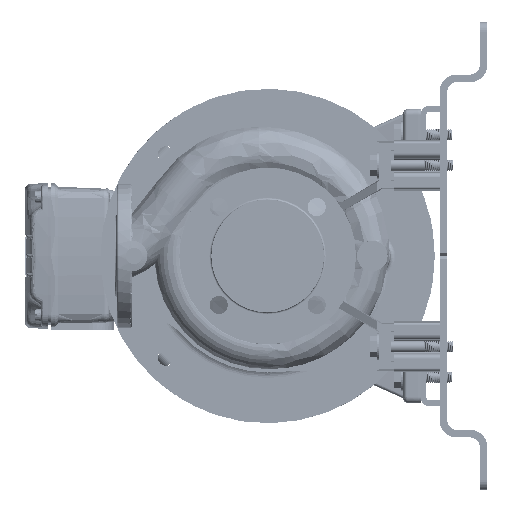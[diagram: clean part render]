
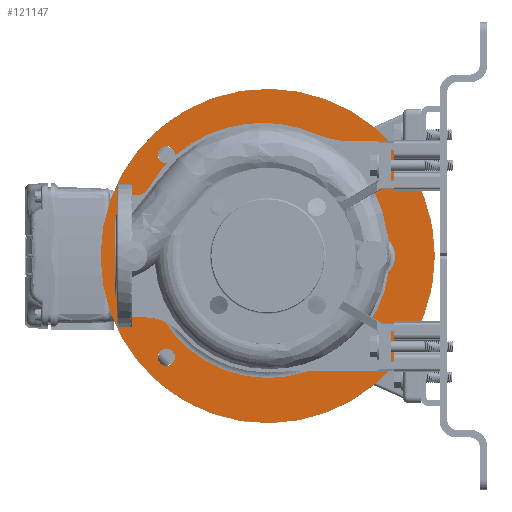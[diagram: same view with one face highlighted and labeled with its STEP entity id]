
A CAD part, left-side view. The second image highlights one B-rep face of the part: STEP entity #121147.
In plain terms, the highlighted planar face has unit normal (-1, 0, 0).
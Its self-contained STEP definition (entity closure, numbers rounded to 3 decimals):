
#3421 = CARTESIAN_POINT ( 'NONE',  ( 229.752, 62.303, 217.188 ) ) ;
#3455 = CIRCLE ( 'NONE', #42219, 9. ) ;
#3625 = FACE_BOUND ( 'NONE', #176148, .T. ) ;
#4035 = DIRECTION ( 'NONE',  ( 0., 0., -1. ) ) ;
#10991 = ORIENTED_EDGE ( 'NONE', *, *, #38010, .T. ) ;
#15312 = DIRECTION ( 'NONE',  ( 0., 0., -1. ) ) ;
#17557 = AXIS2_PLACEMENT_3D ( 'NONE', #74731, #258387, #21630 ) ;
#19636 = DIRECTION ( 'NONE',  ( 0., 0., 1. ) ) ;
#19817 = CARTESIAN_POINT ( 'NONE',  ( 229.752, 168.339, 314.278 ) ) ;
#21630 = DIRECTION ( 'NONE',  ( 0., 0., -1. ) ) ;
#27814 = FACE_BOUND ( 'NONE', #184197, .T. ) ;
#30152 = CARTESIAN_POINT ( 'NONE',  ( 229.752, 62.303, 420.367 ) ) ;
#30153 = CIRCLE ( 'NONE', #88653, 175. ) ;
#33953 = EDGE_CURVE ( 'NONE', #197622, #210861, #210658, .T. ) ;
#34653 = DIRECTION ( 'NONE',  ( -1., 0., 0. ) ) ;
#37283 = DIRECTION ( 'NONE',  ( -1., 0., 0. ) ) ;
#38010 = EDGE_CURVE ( 'NONE', #92273, #113544, #3455, .T. ) ;
#42219 = AXIS2_PLACEMENT_3D ( 'NONE', #109559, #246114, #15312 ) ;
#43204 = CARTESIAN_POINT ( 'NONE',  ( 229.752, 168.339, 314.278 ) ) ;
#46105 = VERTEX_POINT ( 'NONE', #138840 ) ;
#50682 = FACE_BOUND ( 'NONE', #180370, .T. ) ;
#53108 = ORIENTED_EDGE ( 'NONE', *, *, #120908, .T. ) ;
#55169 = DIRECTION ( 'NONE',  ( 0., 0., 1. ) ) ;
#55651 = AXIS2_PLACEMENT_3D ( 'NONE', #19817, #135357, #112646 ) ;
#65312 = ORIENTED_EDGE ( 'NONE', *, *, #139621, .F. ) ;
#65359 = CARTESIAN_POINT ( 'NONE',  ( 229.752, 274.374, 429.367 ) ) ;
#72787 = CIRCLE ( 'NONE', #213464, 23.5 ) ;
#73747 = ORIENTED_EDGE ( 'NONE', *, *, #160124, .F. ) ;
#73923 = AXIS2_PLACEMENT_3D ( 'NONE', #217797, #187681, #169361 ) ;
#74114 = CARTESIAN_POINT ( 'NONE',  ( 229.752, 58.34, 314.278 ) ) ;
#74731 = CARTESIAN_POINT ( 'NONE',  ( 229.752, 168.339, 314.278 ) ) ;
#79401 = EDGE_CURVE ( 'NONE', #191843, #110311, #223924, .T. ) ;
#84880 = CIRCLE ( 'NONE', #162530, 127.679 ) ;
#87200 = EDGE_CURVE ( 'NONE', #187663, #286751, #84880, .T. ) ;
#88653 = AXIS2_PLACEMENT_3D ( 'NONE', #194934, #120681, #123657 ) ;
#89656 = DIRECTION ( 'NONE',  ( 1., 0., 0. ) ) ;
#92273 = VERTEX_POINT ( 'NONE', #65359 ) ;
#94889 = DIRECTION ( 'NONE',  ( -1., 0., 0. ) ) ;
#95045 = CARTESIAN_POINT ( 'NONE',  ( 229.752, 41.748, 297.636 ) ) ;
#98298 = AXIS2_PLACEMENT_3D ( 'NONE', #105171, #174972, #221914 ) ;
#98754 = CARTESIAN_POINT ( 'NONE',  ( 229.752, 274.374, 217.188 ) ) ;
#104076 = AXIS2_PLACEMENT_3D ( 'NONE', #30152, #34653, #170035 ) ;
#105171 = CARTESIAN_POINT ( 'NONE',  ( 229.752, 274.374, 208.188 ) ) ;
#109559 = CARTESIAN_POINT ( 'NONE',  ( 229.752, 274.374, 420.367 ) ) ;
#109804 = CIRCLE ( 'NONE', #17557, 127.679 ) ;
#110311 = VERTEX_POINT ( 'NONE', #248308 ) ;
#110662 = EDGE_CURVE ( 'NONE', #204610, #46105, #109804, .T. ) ;
#111455 = CARTESIAN_POINT ( 'NONE',  ( 229.752, 62.303, 199.188 ) ) ;
#112646 = DIRECTION ( 'NONE',  ( 0., 0., -1. ) ) ;
#113544 = VERTEX_POINT ( 'NONE', #120372 ) ;
#115147 = CARTESIAN_POINT ( 'NONE',  ( 229.752, 62.303, 429.367 ) ) ;
#116145 = ORIENTED_EDGE ( 'NONE', *, *, #149014, .F. ) ;
#117147 = DIRECTION ( 'NONE',  ( 0., 0., 1. ) ) ;
#119631 = CARTESIAN_POINT ( 'NONE',  ( 229.752, 168.339, 314.278 ) ) ;
#120372 = CARTESIAN_POINT ( 'NONE',  ( 229.752, 274.374, 411.367 ) ) ;
#120681 = DIRECTION ( 'NONE',  ( 1., 0., 0. ) ) ;
#120908 = EDGE_CURVE ( 'NONE', #113544, #92273, #215528, .T. ) ;
#121147 = ADVANCED_FACE ( 'NONE', ( #27814, #3625, #258622, #281365, #235941, #50682 ), #216136, .T. ) ;
#123657 = DIRECTION ( 'NONE',  ( 0., 0., -1. ) ) ;
#128491 = CARTESIAN_POINT ( 'NONE',  ( 229.752, 168.339, 441.957 ) ) ;
#133273 = AXIS2_PLACEMENT_3D ( 'NONE', #180723, #292894, #19636 ) ;
#133475 = AXIS2_PLACEMENT_3D ( 'NONE', #144861, #94889, #55169 ) ;
#135357 = DIRECTION ( 'NONE',  ( 1., 0., 0. ) ) ;
#135979 = DIRECTION ( 'NONE',  ( 1., 0., 0. ) ) ;
#137026 = CIRCLE ( 'NONE', #175768, 9. ) ;
#137532 = VERTEX_POINT ( 'NONE', #3421 ) ;
#138840 = CARTESIAN_POINT ( 'NONE',  ( 229.752, 41.748, 330.919 ) ) ;
#139621 = EDGE_CURVE ( 'NONE', #210861, #197622, #272720, .T. ) ;
#141675 = ORIENTED_EDGE ( 'NONE', *, *, #224623, .T. ) ;
#144861 = CARTESIAN_POINT ( 'NONE',  ( 229.752, 343.339, 314.278 ) ) ;
#148362 = CARTESIAN_POINT ( 'NONE',  ( 229.752, 274.374, 208.188 ) ) ;
#149014 = EDGE_CURVE ( 'NONE', #110311, #191843, #156301, .T. ) ;
#153842 = ORIENTED_EDGE ( 'NONE', *, *, #33953, .F. ) ;
#156112 = ORIENTED_EDGE ( 'NONE', *, *, #110662, .T. ) ;
#156301 = CIRCLE ( 'NONE', #98298, 9. ) ;
#160124 = EDGE_CURVE ( 'NONE', #282599, #254888, #30153, .T. ) ;
#162530 = AXIS2_PLACEMENT_3D ( 'NONE', #119631, #89656, #4035 ) ;
#166247 = EDGE_CURVE ( 'NONE', #137532, #243390, #137026, .T. ) ;
#169361 = DIRECTION ( 'NONE',  ( 0., 0., -1. ) ) ;
#169801 = CARTESIAN_POINT ( 'NONE',  ( 229.752, 168.339, 186.598 ) ) ;
#170035 = DIRECTION ( 'NONE',  ( 0., 0., -1. ) ) ;
#172054 = CIRCLE ( 'NONE', #133273, 9. ) ;
#174972 = DIRECTION ( 'NONE',  ( -1., 0., 0. ) ) ;
#175768 = AXIS2_PLACEMENT_3D ( 'NONE', #208145, #235385, #117147 ) ;
#176148 = EDGE_LOOP ( 'NONE', ( #153842, #65312 ) ) ;
#177660 = EDGE_CURVE ( 'NONE', #286751, #204610, #210873, .T. ) ;
#180370 = EDGE_LOOP ( 'NONE', ( #239001, #185639, #156112, #141675 ) ) ;
#180723 = CARTESIAN_POINT ( 'NONE',  ( 229.752, 62.303, 208.188 ) ) ;
#184197 = EDGE_LOOP ( 'NONE', ( #53108, #10991 ) ) ;
#185639 = ORIENTED_EDGE ( 'NONE', *, *, #177660, .T. ) ;
#185986 = EDGE_CURVE ( 'NONE', #243390, #137532, #172054, .T. ) ;
#187663 = VERTEX_POINT ( 'NONE', #95045 ) ;
#187681 = DIRECTION ( 'NONE',  ( -1., 0., 0. ) ) ;
#188795 = EDGE_CURVE ( 'NONE', #254888, #282599, #265221, .T. ) ;
#190228 = AXIS2_PLACEMENT_3D ( 'NONE', #148362, #37283, #293794 ) ;
#191612 = ORIENTED_EDGE ( 'NONE', *, *, #188795, .F. ) ;
#191843 = VERTEX_POINT ( 'NONE', #98754 ) ;
#194934 = CARTESIAN_POINT ( 'NONE',  ( 229.752, 168.339, 314.278 ) ) ;
#197622 = VERTEX_POINT ( 'NONE', #243130 ) ;
#202895 = DIRECTION ( 'NONE',  ( 0., 0., -1. ) ) ;
#204610 = VERTEX_POINT ( 'NONE', #128491 ) ;
#207650 = ORIENTED_EDGE ( 'NONE', *, *, #79401, .F. ) ;
#208145 = CARTESIAN_POINT ( 'NONE',  ( 229.752, 62.303, 208.188 ) ) ;
#210658 = CIRCLE ( 'NONE', #104076, 9. ) ;
#210861 = VERTEX_POINT ( 'NONE', #115147 ) ;
#210873 = CIRCLE ( 'NONE', #55651, 127.679 ) ;
#213464 = AXIS2_PLACEMENT_3D ( 'NONE', #74114, #279032, #277549 ) ;
#215528 = CIRCLE ( 'NONE', #220457, 9. ) ;
#216136 = PLANE ( 'NONE',  #133475 ) ;
#216997 = AXIS2_PLACEMENT_3D ( 'NONE', #43204, #135979, #290683 ) ;
#217797 = CARTESIAN_POINT ( 'NONE',  ( 229.752, 62.303, 420.367 ) ) ;
#218610 = CARTESIAN_POINT ( 'NONE',  ( 229.752, 168.339, 139.278 ) ) ;
#220457 = AXIS2_PLACEMENT_3D ( 'NONE', #295361, #265138, #202895 ) ;
#221914 = DIRECTION ( 'NONE',  ( 0., 0., 1. ) ) ;
#222015 = EDGE_LOOP ( 'NONE', ( #207650, #116145 ) ) ;
#223924 = CIRCLE ( 'NONE', #190228, 9. ) ;
#224623 = EDGE_CURVE ( 'NONE', #46105, #187663, #72787, .T. ) ;
#235385 = DIRECTION ( 'NONE',  ( 1., 0., 0. ) ) ;
#235941 = FACE_BOUND ( 'NONE', #259146, .T. ) ;
#239001 = ORIENTED_EDGE ( 'NONE', *, *, #87200, .T. ) ;
#242306 = CARTESIAN_POINT ( 'NONE',  ( 229.752, 168.339, 489.278 ) ) ;
#243130 = CARTESIAN_POINT ( 'NONE',  ( 229.752, 62.303, 411.367 ) ) ;
#243390 = VERTEX_POINT ( 'NONE', #111455 ) ;
#244571 = EDGE_LOOP ( 'NONE', ( #191612, #73747 ) ) ;
#246114 = DIRECTION ( 'NONE',  ( 1., 0., 0. ) ) ;
#248308 = CARTESIAN_POINT ( 'NONE',  ( 229.752, 274.374, 199.188 ) ) ;
#254888 = VERTEX_POINT ( 'NONE', #218610 ) ;
#258387 = DIRECTION ( 'NONE',  ( 1., 0., 0. ) ) ;
#258622 = FACE_OUTER_BOUND ( 'NONE', #244571, .T. ) ;
#259146 = EDGE_LOOP ( 'NONE', ( #276242, #285382 ) ) ;
#265138 = DIRECTION ( 'NONE',  ( 1., 0., 0. ) ) ;
#265221 = CIRCLE ( 'NONE', #216997, 175. ) ;
#272720 = CIRCLE ( 'NONE', #73923, 9. ) ;
#276242 = ORIENTED_EDGE ( 'NONE', *, *, #166247, .T. ) ;
#277549 = DIRECTION ( 'NONE',  ( 0., 0., 1. ) ) ;
#279032 = DIRECTION ( 'NONE',  ( 1., 0., 0. ) ) ;
#281365 = FACE_BOUND ( 'NONE', #222015, .T. ) ;
#282599 = VERTEX_POINT ( 'NONE', #242306 ) ;
#285382 = ORIENTED_EDGE ( 'NONE', *, *, #185986, .T. ) ;
#286751 = VERTEX_POINT ( 'NONE', #169801 ) ;
#290683 = DIRECTION ( 'NONE',  ( 0., 0., -1. ) ) ;
#292894 = DIRECTION ( 'NONE',  ( 1., 0., 0. ) ) ;
#293794 = DIRECTION ( 'NONE',  ( 0., 0., 1. ) ) ;
#295361 = CARTESIAN_POINT ( 'NONE',  ( 229.752, 274.374, 420.367 ) ) ;
